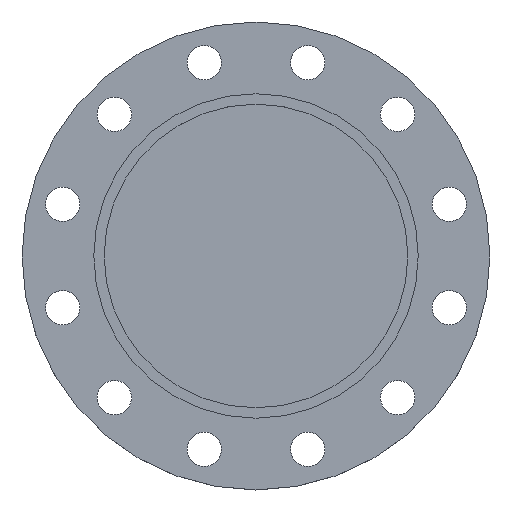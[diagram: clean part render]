
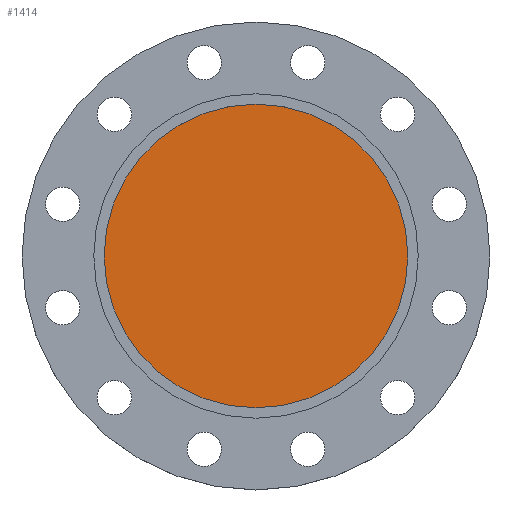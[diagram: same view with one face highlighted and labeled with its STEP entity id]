
A CAD part, top view. The second image highlights one B-rep face of the part: STEP entity #1414.
In plain terms, the highlighted planar face has unit normal (0, 0, 1).
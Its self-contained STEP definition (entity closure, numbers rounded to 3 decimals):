
#10 = ORIENTED_EDGE ( 'NONE', *, *, #1367, .F. ) ;
#30 = CIRCLE ( 'NONE', #1300, 146. ) ;
#69 = DIRECTION ( 'NONE',  ( 1., 0., 0. ) ) ;
#70 = DIRECTION ( 'NONE',  ( 0., 0., 1. ) ) ;
#71 = CARTESIAN_POINT ( 'NONE',  ( 146., 0., -5. ) ) ;
#72 = PLANE ( 'NONE',  #284 ) ;
#73 = FACE_OUTER_BOUND ( 'NONE', #1347, .T. ) ;
#101 = DIRECTION ( 'NONE',  ( -1., 0., 0. ) ) ;
#103 = DIRECTION ( 'NONE',  ( 0., 0., -1. ) ) ;
#107 = CARTESIAN_POINT ( 'NONE',  ( 0., 0., -5. ) ) ;
#163 = CARTESIAN_POINT ( 'NONE',  ( -146., 0., -5. ) ) ;
#245 = CIRCLE ( 'NONE', #247, 146. ) ;
#247 = AXIS2_PLACEMENT_3D ( 'NONE', #107, #103, #101 ) ;
#249 = DIRECTION ( 'NONE',  ( -1., 0., 0. ) ) ;
#250 = DIRECTION ( 'NONE',  ( 0., 0., -1. ) ) ;
#251 = CARTESIAN_POINT ( 'NONE',  ( 0., 0., -5. ) ) ;
#284 = AXIS2_PLACEMENT_3D ( 'NONE', #71, #70, #69 ) ;
#410 = CARTESIAN_POINT ( 'NONE',  ( 146., 0., -5. ) ) ;
#1098 = VERTEX_POINT ( 'NONE', #410 ) ;
#1260 = EDGE_CURVE ( 'NONE', #1098, #1312, #30, .T. ) ;
#1300 = AXIS2_PLACEMENT_3D ( 'NONE', #251, #250, #249 ) ;
#1312 = VERTEX_POINT ( 'NONE', #163 ) ;
#1347 = EDGE_LOOP ( 'NONE', ( #10, #1400 ) ) ;
#1367 = EDGE_CURVE ( 'NONE', #1312, #1098, #245, .T. ) ;
#1400 = ORIENTED_EDGE ( 'NONE', *, *, #1260, .F. ) ;
#1414 = ADVANCED_FACE ( 'NONE', ( #73 ), #72, .T. ) ;
